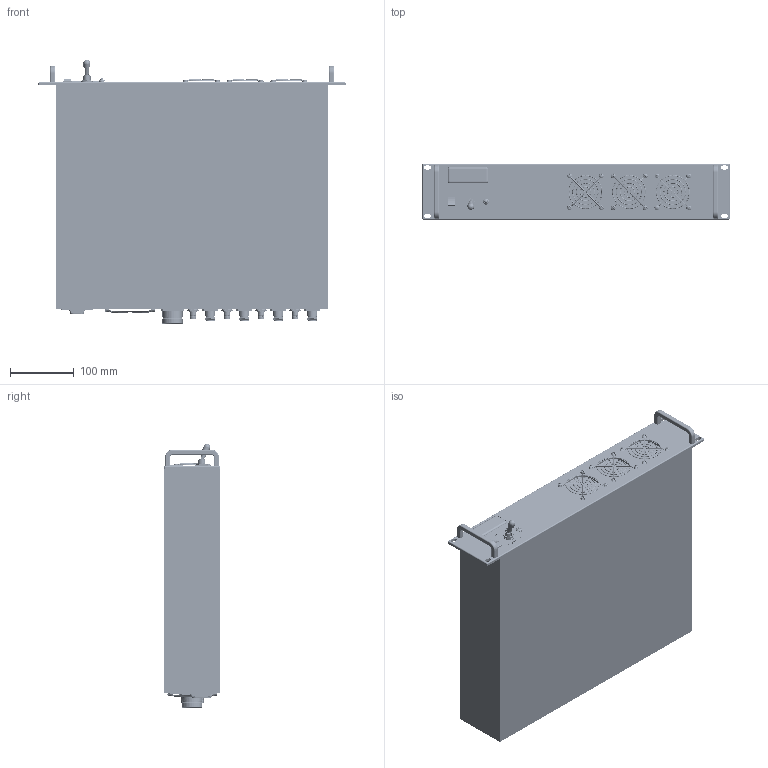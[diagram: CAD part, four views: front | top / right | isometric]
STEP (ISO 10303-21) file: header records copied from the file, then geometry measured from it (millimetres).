
FILE_DESCRIPTION (( 'STEP AP203' ), '1' );
FILE_NAME ('Rack Mount TX.STEP', '2025-10-13T18:27:53', ( '' ), ( '' ), 'SwSTEP 2.0', 'SolidWorks 2023', '' );
FILE_SCHEMA (( 'CONFIG_CONTROL_DESIGN' ));
Products named in the file (1): Rack Mount TX
Bounding box: 481.33 x 87.63 x 413.85 mm (x, y, z)
Volume: 13354673.8 mm3; surface area: 639653.9 mm2
Topology: 66 solids, 68 shells, 9551 faces, 26503 edges, 17294 vertices
Faces by surface type: cylinder 5423, plane 2438, cone 611, bspline 547, torus 490, sphere 42
Entity records: 481165 total; most frequent: CARTESIAN_POINT 263185, ORIENTED_EDGE 52802, DIRECTION 38784, EDGE_CURVE 26401, VERTEX_POINT 17292, AXIS2_PLACEMENT_3D 13672, LINE 11440, VECTOR 11440
